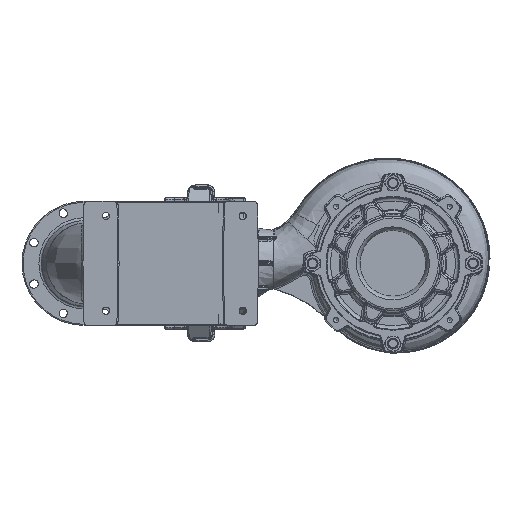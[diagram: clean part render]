
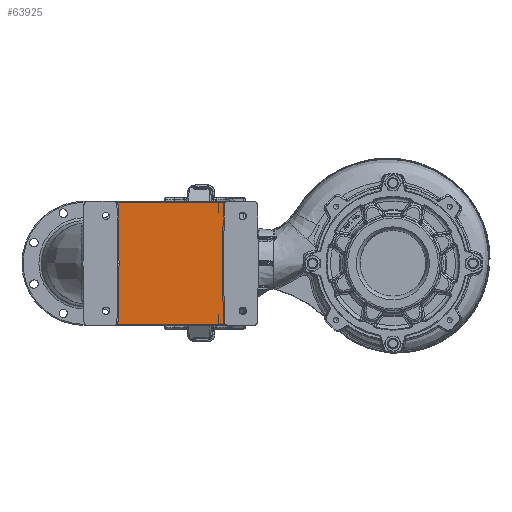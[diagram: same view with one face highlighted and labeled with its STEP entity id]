
A CAD part, front view. The second image highlights one B-rep face of the part: STEP entity #63925.
In plain terms, the highlighted planar face has unit normal (0, -1, 0).
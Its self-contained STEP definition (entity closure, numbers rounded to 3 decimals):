
#1098 = VERTEX_POINT ( 'NONE', #167356 ) ;
#3200 = AXIS2_PLACEMENT_3D ( 'NONE', #153263, #116222, #135119 ) ;
#5128 = ORIENTED_EDGE ( 'NONE', *, *, #144627, .T. ) ;
#7105 = VERTEX_POINT ( 'NONE', #13409 ) ;
#8918 = EDGE_CURVE ( 'NONE', #106502, #106912, #153571, .T. ) ;
#13409 = CARTESIAN_POINT ( 'NONE',  ( -389.302, -992.39, -222.136 ) ) ;
#14995 = LINE ( 'NONE', #97338, #190744 ) ;
#17053 = EDGE_CURVE ( 'NONE', #97183, #1098, #62913, .T. ) ;
#18327 = AXIS2_PLACEMENT_3D ( 'NONE', #139233, #133966, #204235 ) ;
#20882 = EDGE_CURVE ( 'NONE', #1098, #120023, #175741, .T. ) ;
#23211 = EDGE_CURVE ( 'NONE', #131535, #7105, #204877, .T. ) ;
#24595 = CARTESIAN_POINT ( 'NONE',  ( -677.96, -992.39, 98.317 ) ) ;
#30628 = VECTOR ( 'NONE', #66289, 1000. ) ;
#34931 = DIRECTION ( 'NONE',  ( -1., 0., 0. ) ) ;
#36055 = ORIENTED_EDGE ( 'NONE', *, *, #23211, .T. ) ;
#36290 = ORIENTED_EDGE ( 'NONE', *, *, #112787, .T. ) ;
#38878 = CARTESIAN_POINT ( 'NONE',  ( -675.164, -992.39, -61.909 ) ) ;
#44136 = AXIS2_PLACEMENT_3D ( 'NONE', #149705, #114101, #131543 ) ;
#49520 = ORIENTED_EDGE ( 'NONE', *, *, #20882, .T. ) ;
#52559 = CARTESIAN_POINT ( 'NONE',  ( -387.259, -992.39, -228.909 ) ) ;
#62913 = LINE ( 'NONE', #169766, #30628 ) ;
#63925 = ADVANCED_FACE ( 'NONE', ( #155984 ), #220932, .T. ) ;
#66289 = DIRECTION ( 'NONE',  ( -0.017, 0., -1. ) ) ;
#66475 = ORIENTED_EDGE ( 'NONE', *, *, #167116, .T. ) ;
#69398 = DIRECTION ( 'NONE',  ( 0.017, 0., 1. ) ) ;
#70027 = ORIENTED_EDGE ( 'NONE', *, *, #17053, .T. ) ;
#87225 = CARTESIAN_POINT ( 'NONE',  ( -675.164, -992.39, -61.857 ) ) ;
#87315 = ORIENTED_EDGE ( 'NONE', *, *, #8918, .T. ) ;
#87835 = VECTOR ( 'NONE', #115125, 1000. ) ;
#95191 = VERTEX_POINT ( 'NONE', #145828 ) ;
#96213 = CARTESIAN_POINT ( 'NONE',  ( -392.098, -992.39, -61.962 ) ) ;
#96366 = DIRECTION ( 'NONE',  ( 0., 0., -1. ) ) ;
#97183 = VERTEX_POINT ( 'NONE', #38878 ) ;
#97338 = CARTESIAN_POINT ( 'NONE',  ( -376.304, -992.39, -228.909 ) ) ;
#97936 = EDGE_CURVE ( 'NONE', #7105, #153967, #174334, .T. ) ;
#98489 = VERTEX_POINT ( 'NONE', #24595 ) ;
#101445 = CIRCLE ( 'NONE', #3200, 13. ) ;
#106253 = CIRCLE ( 'NONE', #164993, 13. ) ;
#106502 = VERTEX_POINT ( 'NONE', #144094 ) ;
#106912 = VERTEX_POINT ( 'NONE', #142016 ) ;
#107357 = CARTESIAN_POINT ( 'NONE',  ( -771.131, -992.39, 105.091 ) ) ;
#110321 = VECTOR ( 'NONE', #34931, 1000. ) ;
#112578 = LINE ( 'NONE', #87225, #139712 ) ;
#112787 = EDGE_CURVE ( 'NONE', #95191, #106502, #106253, .T. ) ;
#114101 = DIRECTION ( 'NONE',  ( 0., 1., 0. ) ) ;
#115125 = DIRECTION ( 'NONE',  ( -0.017, 0., 1. ) ) ;
#116222 = DIRECTION ( 'NONE',  ( 0., 1., 0. ) ) ;
#120023 = VERTEX_POINT ( 'NONE', #186871 ) ;
#120891 = DIRECTION ( 'NONE',  ( 0., 0., -1. ) ) ;
#131535 = VERTEX_POINT ( 'NONE', #52559 ) ;
#131543 = DIRECTION ( 'NONE',  ( 0., 0., -1. ) ) ;
#132158 = DIRECTION ( 'NONE',  ( 1., 0., 0. ) ) ;
#133966 = DIRECTION ( 'NONE',  ( 0., -1., 0. ) ) ;
#135119 = DIRECTION ( 'NONE',  ( 0., 0., -1. ) ) ;
#138823 = LINE ( 'NONE', #193248, #220036 ) ;
#139233 = CARTESIAN_POINT ( 'NONE',  ( -771.131, -992.39, -61.909 ) ) ;
#139712 = VECTOR ( 'NONE', #171907, 1000. ) ;
#142016 = CARTESIAN_POINT ( 'NONE',  ( -680.004, -992.39, 105.091 ) ) ;
#144094 = CARTESIAN_POINT ( 'NONE',  ( -387.259, -992.39, 105.091 ) ) ;
#144627 = EDGE_CURVE ( 'NONE', #98489, #97183, #112578, .T. ) ;
#145828 = CARTESIAN_POINT ( 'NONE',  ( -389.302, -992.39, 98.317 ) ) ;
#149705 = CARTESIAN_POINT ( 'NONE',  ( -690.958, -992.39, -221.909 ) ) ;
#153263 = CARTESIAN_POINT ( 'NONE',  ( -690.958, -992.39, 98.091 ) ) ;
#153571 = LINE ( 'NONE', #107357, #110321 ) ;
#153967 = VERTEX_POINT ( 'NONE', #164341 ) ;
#155984 = FACE_OUTER_BOUND ( 'NONE', #182178, .T. ) ;
#158926 = ORIENTED_EDGE ( 'NONE', *, *, #202365, .T. ) ;
#164341 = CARTESIAN_POINT ( 'NONE',  ( -392.099, -992.39, -61.909 ) ) ;
#164993 = AXIS2_PLACEMENT_3D ( 'NONE', #165142, #198440, #96366 ) ;
#165142 = CARTESIAN_POINT ( 'NONE',  ( -376.304, -992.39, 98.091 ) ) ;
#167116 = EDGE_CURVE ( 'NONE', #120023, #131535, #14995, .T. ) ;
#167136 = EDGE_CURVE ( 'NONE', #106912, #98489, #101445, .T. ) ;
#167356 = CARTESIAN_POINT ( 'NONE',  ( -677.96, -992.39, -222.136 ) ) ;
#169766 = CARTESIAN_POINT ( 'NONE',  ( -677.96, -992.39, -222.136 ) ) ;
#171907 = DIRECTION ( 'NONE',  ( 0.017, 0., -1. ) ) ;
#174334 = LINE ( 'NONE', #96213, #87835 ) ;
#175741 = CIRCLE ( 'NONE', #44136, 13. ) ;
#182178 = EDGE_LOOP ( 'NONE', ( #36055, #186539, #158926, #36290, #87315, #185211, #5128, #70027, #49520, #66475 ) ) ;
#185211 = ORIENTED_EDGE ( 'NONE', *, *, #167136, .T. ) ;
#186539 = ORIENTED_EDGE ( 'NONE', *, *, #97936, .T. ) ;
#186871 = CARTESIAN_POINT ( 'NONE',  ( -680.004, -992.39, -228.909 ) ) ;
#190385 = CARTESIAN_POINT ( 'NONE',  ( -376.304, -992.39, -221.909 ) ) ;
#190744 = VECTOR ( 'NONE', #132158, 1000. ) ;
#193248 = CARTESIAN_POINT ( 'NONE',  ( -389.302, -992.39, 98.317 ) ) ;
#198440 = DIRECTION ( 'NONE',  ( 0., 1., 0. ) ) ;
#202365 = EDGE_CURVE ( 'NONE', #153967, #95191, #138823, .T. ) ;
#203684 = AXIS2_PLACEMENT_3D ( 'NONE', #190385, #224549, #120891 ) ;
#204235 = DIRECTION ( 'NONE',  ( 0., 0., -1. ) ) ;
#204877 = CIRCLE ( 'NONE', #203684, 13. ) ;
#220036 = VECTOR ( 'NONE', #69398, 1000. ) ;
#220932 = PLANE ( 'NONE',  #18327 ) ;
#224549 = DIRECTION ( 'NONE',  ( 0., 1., 0. ) ) ;
